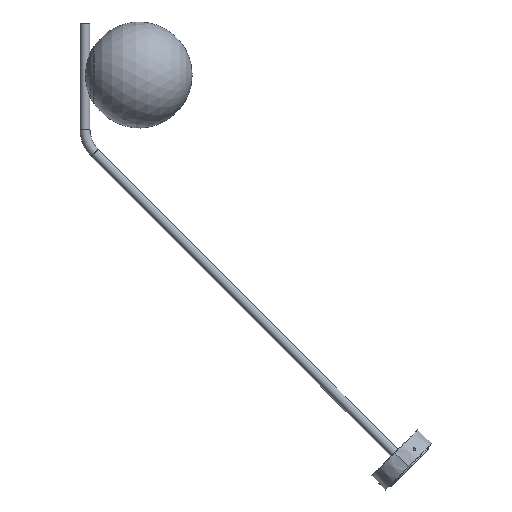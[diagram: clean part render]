
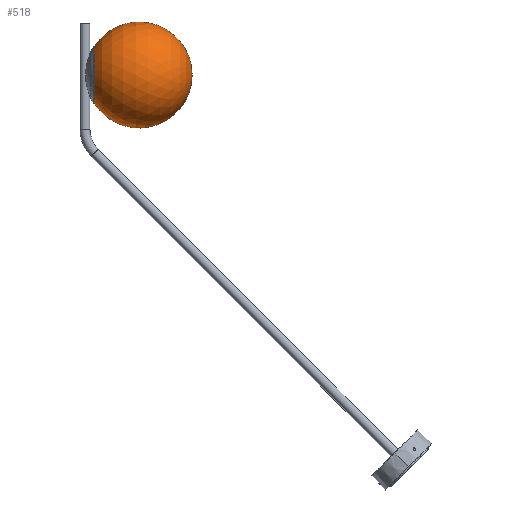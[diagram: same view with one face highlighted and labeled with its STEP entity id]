
A CAD part, left-side view. The second image highlights one B-rep face of the part: STEP entity #518.
In plain terms, the highlighted spherical face has radius 80 mm.
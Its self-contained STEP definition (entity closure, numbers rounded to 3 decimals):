
#479=CARTESIAN_POINT('',(0.,44.739,44.));
#480=DIRECTION('',(0.,1.,0.));
#481=DIRECTION('',(0.,0.,-1.));
#482=AXIS2_PLACEMENT_3D('',#479,#480,#481);
#484=CARTESIAN_POINT('',(0.,-22.691,44.));
#485=DIRECTION('',(-1.,0.,0.));
#486=DIRECTION('',(0.,0.843,-0.538));
#487=AXIS2_PLACEMENT_3D('',#484,#485,#486);
#489=CARTESIAN_POINT('',(0.,-22.691,44.));
#490=DIRECTION('',(1.,0.,0.));
#491=DIRECTION('',(0.,0.843,0.538));
#492=AXIS2_PLACEMENT_3D('',#489,#490,#491);
#499=CARTESIAN_POINT('',(0.,44.739,0.951));
#500=CARTESIAN_POINT('',(0.,-102.691,44.));
#501=VERTEX_POINT('',#499);
#502=VERTEX_POINT('',#500);
#503=CARTESIAN_POINT('',(0.,44.739,87.049));
#504=VERTEX_POINT('',#503);
#505=CARTESIAN_POINT('',(0.,-22.691,44.));
#506=DIRECTION('',(0.,1.,0.));
#507=DIRECTION('',(0.,0.,1.));
#508=AXIS2_PLACEMENT_3D('',#505,#506,#507);
#509=SPHERICAL_SURFACE('',#508,80.);
#511=ORIENTED_EDGE('',*,*,#510,.F.);
#513=ORIENTED_EDGE('',*,*,#512,.T.);
#515=ORIENTED_EDGE('',*,*,#514,.T.);
#516=EDGE_LOOP('',(#511,#513,#515));
#517=FACE_OUTER_BOUND('',#516,.F.);
#518=ADVANCED_FACE('',(#517),#509,.T.);
#483=CIRCLE('',#482,43.049);
#488=CIRCLE('',#487,80.);
#493=CIRCLE('',#492,80.);
#510=EDGE_CURVE('',#501,#502,#488,.T.);
#512=EDGE_CURVE('',#501,#504,#483,.T.);
#514=EDGE_CURVE('',#504,#502,#493,.T.);
